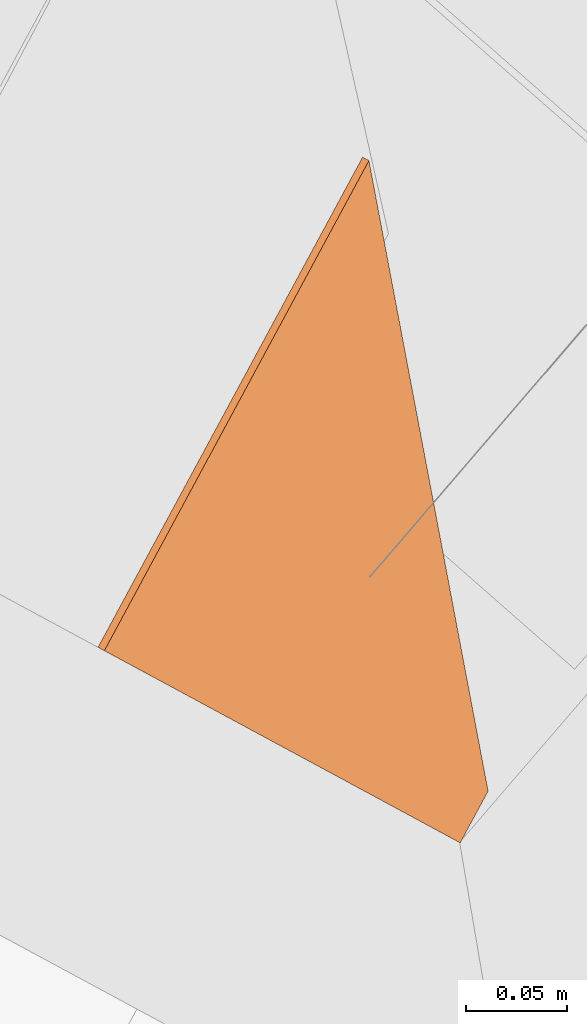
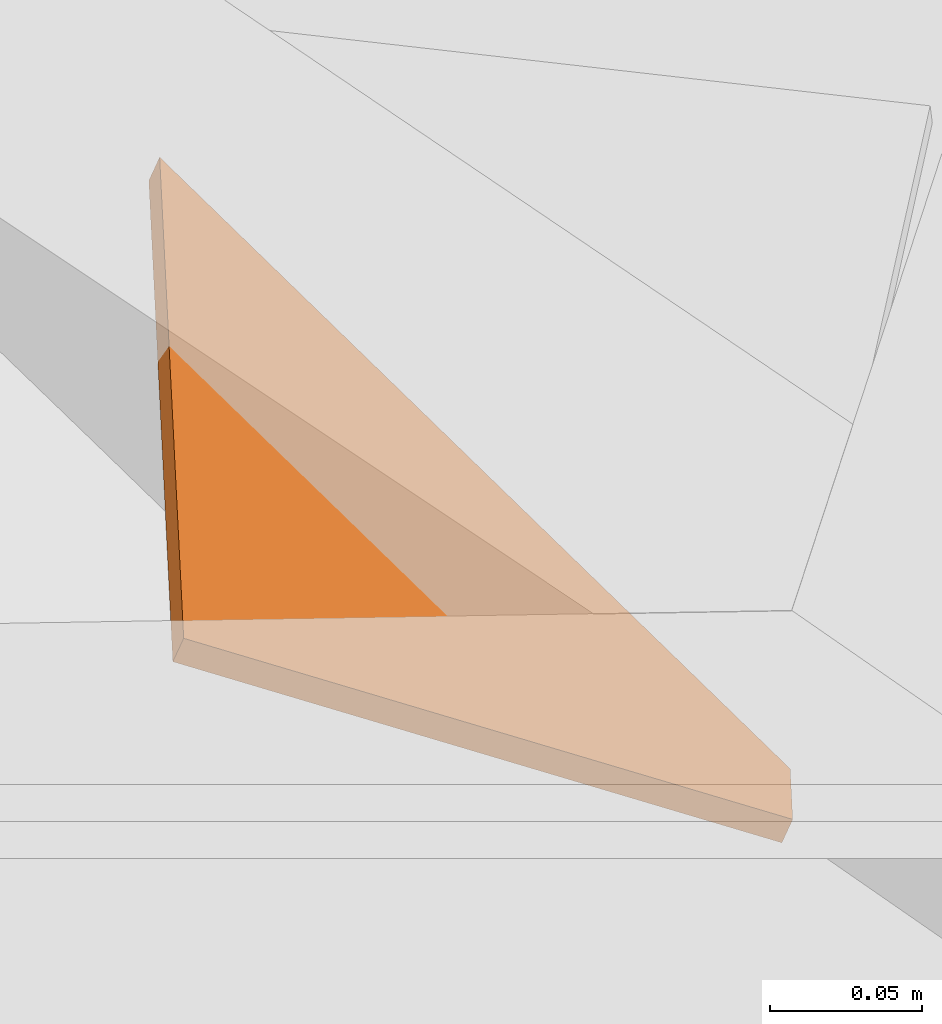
# One storey, part 41 of 41: 1 proxy.
"""IFC2X3 building model written with IfcOpenShell, lengths in metres."""

from ifc_helpers import new_model, entity, si_unit, converted_unit, derived_unit, money_unit, direction, frame, origin_with_axes, place, context, subcontext, project, spatial, faceted_brep, material, type_object, element, save


model = new_model("IFC2X3")

# Units and contexts
model_context = context("Model", 3, precision=1e-05, world=origin_with_axes(), true_north=direction((0.0, 1.0)))
body_context = subcontext(model_context, "Body", "Model", "MODEL_VIEW")
ifc_project = project(units=[si_unit("LENGTHUNIT", "METRE"), si_unit("AREAUNIT", "SQUARE_METRE"), si_unit("VOLUMEUNIT", "CUBIC_METRE"), converted_unit("PLANEANGLEUNIT", "DEGREE", entity("IfcPlaneAngleMeasure", 0.0174532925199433), si_unit("PLANEANGLEUNIT", "RADIAN"), dimensions=[0, 0, 0, 0, 0, 0, 0]), money_unit("EUR"), converted_unit("TIMEUNIT", "Year", entity("IfcTimeMeasure", 31556926.0), si_unit("TIMEUNIT", "SECOND"), dimensions=[0, 0, 1, 0, 0, 0, 0]), si_unit("MASSUNIT", "GRAM", prefix="KILO"), si_unit("THERMODYNAMICTEMPERATUREUNIT", "DEGREE_CELSIUS"), si_unit("LUMINOUSINTENSITYUNIT", "LUMEN"), si_unit("ENERGYUNIT", "JOULE", prefix="MEGA"), derived_unit("THERMALCONDUCTANCEUNIT", [(si_unit("POWERUNIT", "WATT"), 1), (si_unit("LENGTHUNIT", "METRE"), -1), (si_unit("THERMODYNAMICTEMPERATUREUNIT", "KELVIN"), -1)]), derived_unit("SPECIFICHEATCAPACITYUNIT", [(si_unit("ENERGYUNIT", "JOULE"), 1), (si_unit("MASSUNIT", "GRAM", prefix="KILO"), -1), (si_unit("THERMODYNAMICTEMPERATUREUNIT", "KELVIN"), -1)]), derived_unit("MASSDENSITYUNIT", [(si_unit("MASSUNIT", "GRAM", prefix="KILO"), 1), (si_unit("VOLUMEUNIT", "CUBIC_METRE"), -1)])], contexts=[model_context])

# Site, building, storey
site_placement = place(None, frame((-3.949935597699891, 1.740105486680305, 0.0), z_axis=(0.0, 0.0, 1.0), x_axis=(0.8799804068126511, -0.475009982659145, 0.0)))
site = spatial("IfcSite", under=ifc_project, at=site_placement, Name="Gelände", CompositionType="ELEMENT")
building_placement = place(site_placement, origin_with_axes())
building = spatial("IfcBuilding", under=site, at=building_placement, Name="Gebäude", CompositionType="ELEMENT")
storey_placement = place(building_placement, frame((0.0, 0.0, 4.55), z_axis=(0.0, 0.0, 1.0), x_axis=(1.0, 0.0, 0.0)))
storey = spatial("IfcBuildingStorey", under=building, at=storey_placement, Name="Staffelgeschoss", CompositionType="ELEMENT", Elevation=4.55)

# Proxy
ifc_material = material(Name="ALLGEMEIN - BAUTEIL")
building_element_proxy_type = type_object("IfcBuildingElementProxyType", Name="ALLGEMEIN - BAUTEIL", PredefinedType="USERDEFINED")
proxy_placement = place(storey_placement, frame((26.75961427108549, 1.096892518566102, 2.903466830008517), z_axis=(0.3575193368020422, 0.0, 0.933905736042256), x_axis=(0.933905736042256, 0.0, -0.3575193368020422)))
element("IfcBuildingElementProxy", 1, at=proxy_placement, inside=storey, type_object=building_element_proxy_type, material=ifc_material, Name="Morph-037", ObjectType="SHADING_DEVICE", context=body_context, shape_type="Brep", body=[
    faceted_brep([(0.0, -0.6904938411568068, 0.00999999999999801), (0.0, -0.9669000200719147, 0.00999999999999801), (0.2149137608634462, -0.9377678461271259, 0.009952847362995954), (0.0, -0.9669000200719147, 0.0), (0.0, -0.6904938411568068, 0.0), (0.2148913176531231, -0.9669323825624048, 0.01000000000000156), (0.2149137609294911, -0.9377673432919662, -4.715261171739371e-05), (0.2148913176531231, -0.9669323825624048, 0.0)], [[[0, 1, 2]], [[3, 1, 0, 4]], [[1, 5, 2]], [[0, 2, 6]], [[1, 3, 7, 5]], [[4, 0, 6]], [[3, 4, 6]], [[2, 5, 6]], [[7, 3, 6]], [[5, 7, 6]]]),
])

save(model, "model.ifc")
